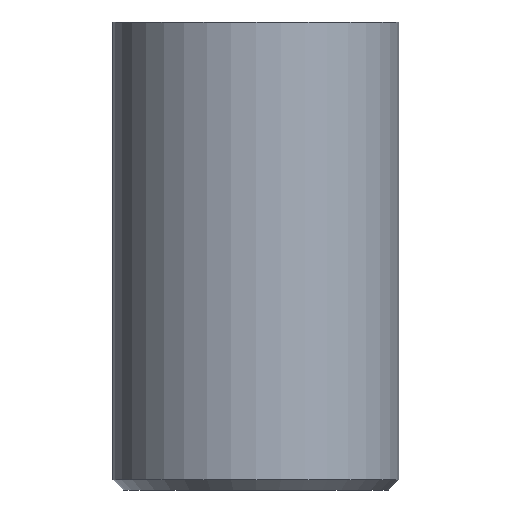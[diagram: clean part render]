
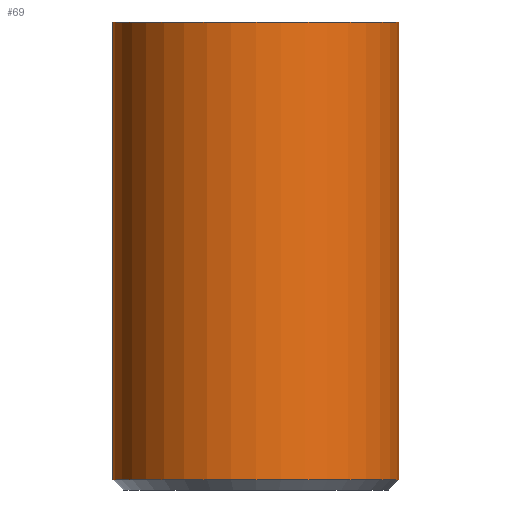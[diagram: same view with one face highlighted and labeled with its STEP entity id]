
A CAD part, front view. The second image highlights one B-rep face of the part: STEP entity #69.
In plain terms, the highlighted cylindrical face has radius 27.5 mm (diameter 55 mm), a full revolution.
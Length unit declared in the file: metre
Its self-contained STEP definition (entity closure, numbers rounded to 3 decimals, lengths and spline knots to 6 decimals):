
#69 = ADVANCED_FACE( '', ( #156, #157 ), #158, .T. );
#156 = FACE_OUTER_BOUND( '', #251, .T. );
#157 = FACE_OUTER_BOUND( '', #252, .T. );
#158 = CYLINDRICAL_SURFACE( '', #253, 0.0275 );
#251 = EDGE_LOOP( '', ( #364 ) );
#252 = EDGE_LOOP( '', ( #365 ) );
#253 = AXIS2_PLACEMENT_3D( '', #366, #367, #368 );
#364 = ORIENTED_EDGE( '', *, *, #451, .T. );
#365 = ORIENTED_EDGE( '', *, *, #441, .F. );
#366 = CARTESIAN_POINT( '', ( 0., 0., -0.09 ) );
#367 = DIRECTION( '', ( 0., 0., -1. ) );
#368 = DIRECTION( '', ( 1., 0., 0. ) );
#441 = EDGE_CURVE( '', #501, #501, #502, .T. );
#451 = EDGE_CURVE( '', #514, #514, #515, .T. );
#501 = VERTEX_POINT( '', #564 );
#502 = CIRCLE( '', #565, 0.0275 );
#514 = VERTEX_POINT( '', #577 );
#515 = CIRCLE( '', #578, 0.0275 );
#564 = CARTESIAN_POINT( '', ( 0.0275, 0., 0. ) );
#565 = AXIS2_PLACEMENT_3D( '', #634, #635, #636 );
#577 = CARTESIAN_POINT( '', ( 0.0275, 0., -0.088 ) );
#578 = AXIS2_PLACEMENT_3D( '', #646, #647, #648 );
#634 = CARTESIAN_POINT( '', ( 0., 0., 0. ) );
#635 = DIRECTION( '', ( 0., 0., 1. ) );
#636 = DIRECTION( '', ( 1., 0., 0. ) );
#646 = CARTESIAN_POINT( '', ( 0., 0., -0.088 ) );
#647 = DIRECTION( '', ( 0., 0., 1. ) );
#648 = DIRECTION( '', ( 1., 0., 0. ) );
